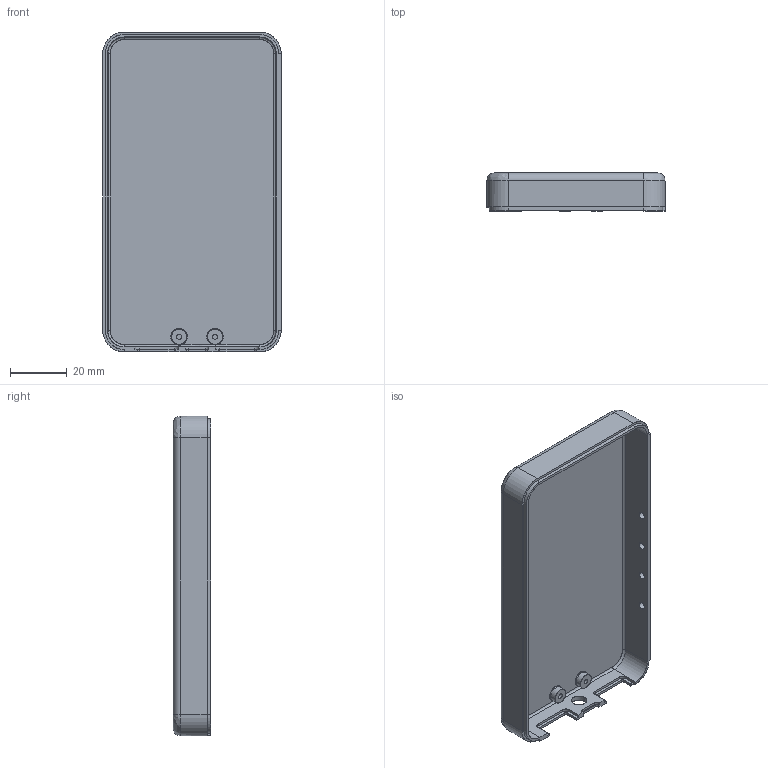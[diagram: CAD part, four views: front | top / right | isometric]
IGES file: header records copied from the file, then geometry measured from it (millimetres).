
Start section: SolidWorks IGES file using analytic representation for surfaces
Global section: file name: C:\Users\ALIENWARE\Documents\PowerBank\Case150Top.IGS; native system: SolidWorks 2014; preprocessor: SolidWorks 2014; author: ALIENWARE; date: 150203.151336; units: inch
Bounding box: 63.11 x 13.29 x 113.12 mm (x, y, z)
Surface area: 21772 mm2 (no closed solid volume)
Topology: 0 solids, 0 shells, 113 faces, 1468 edges, 1468 vertices
Faces by surface type: bspline 76, revolution 37
